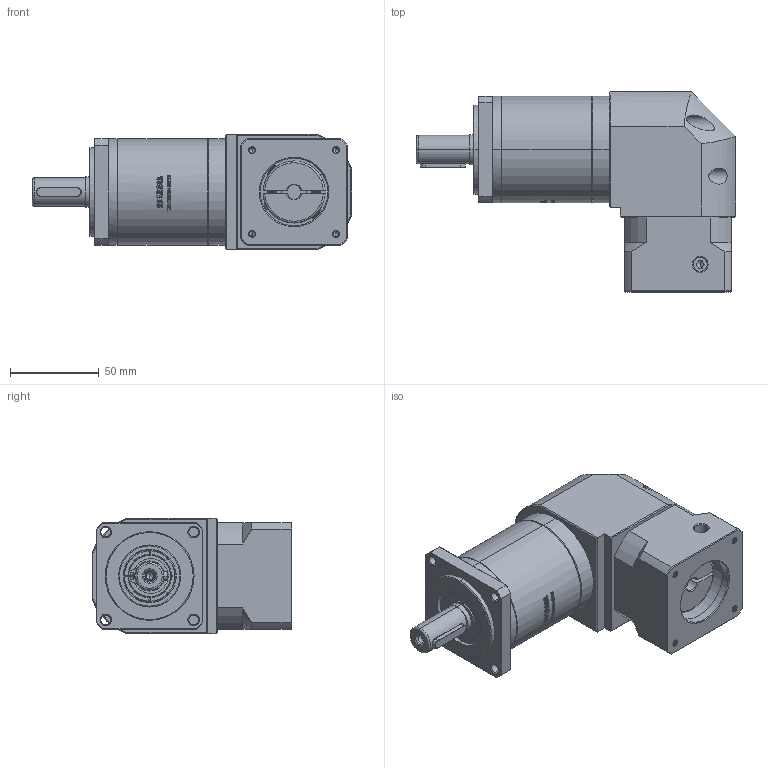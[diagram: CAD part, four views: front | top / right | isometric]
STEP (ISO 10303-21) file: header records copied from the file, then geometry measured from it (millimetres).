
FILE_DESCRIPTION (( 'STEP AP214' ), '1' );
FILE_NAME ('ZFR60-D16-L2-8-38.1-47.14x47.14-M4.STEP', '2022-04-20T08:22:16', ( '' ), ( 'Microsoft' ), 'SwSTEP 2.0', 'SolidWorks 2016', '' );
FILE_SCHEMA (( 'AUTOMOTIVE_DESIGN' ));
Length unit declared in the file: millimetre
Products named in the file (1): ZFR60-D16-L2-8-38.1-47.14x47.14-M4
Bounding box: 180 x 112.7 x 65 mm (x, y, z)
Volume: 592855.3 mm3; surface area: 83498.9 mm2
Topology: 5 solids, 6 shells, 2687 faces, 7326 edges, 4777 vertices
Faces by surface type: plane 1398, bspline 579, cylinder 396, cone 290, torus 24
Entity records: 146873 total; most frequent: CARTESIAN_POINT 54918, ORIENTED_EDGE 14608, DIRECTION 10526, EDGE_CURVE 7304, VERTEX_POINT 4777, LINE 4382, VECTOR 4382, AXIS2_PLACEMENT_3D 3072
